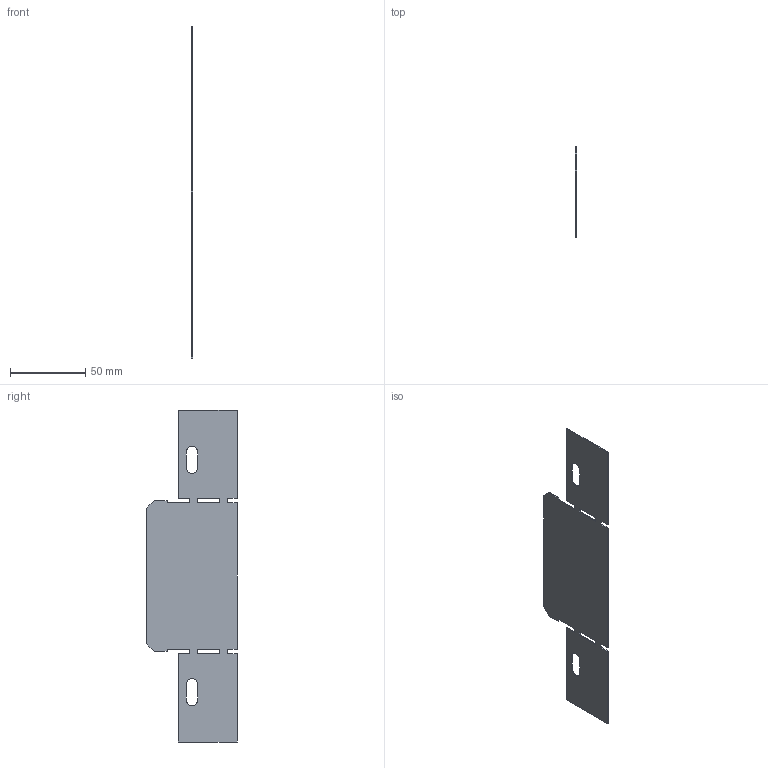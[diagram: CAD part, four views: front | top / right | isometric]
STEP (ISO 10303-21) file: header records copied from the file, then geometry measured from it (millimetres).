
FILE_DESCRIPTION (( 'STEP AP203' ), '1' );
FILE_NAME ('REER 100x60.STEP', '2020-02-12T08:25:18', ( '' ), ( '' ), 'SwSTEP 2.0', 'SolidWorks 2019', '' );
FILE_SCHEMA (( 'CONFIG_CONTROL_DESIGN' ));
Length unit declared in the file: millimetre
Products named in the file (1): REER 100x60
Bounding box: 0.7 x 60 x 220 mm (x, y, z)
Volume: 7148.9 mm3; surface area: 20969.4 mm2
Topology: 1 solids, 1 shells, 46 faces, 132 edges, 88 vertices
Faces by surface type: plane 40, cylinder 6
Entity records: 1581 total; most frequent: CARTESIAN_POINT 267, ORIENTED_EDGE 264, DIRECTION 238, EDGE_CURVE 132, LINE 120, VECTOR 120, VERTEX_POINT 88, AXIS2_PLACEMENT_3D 59
